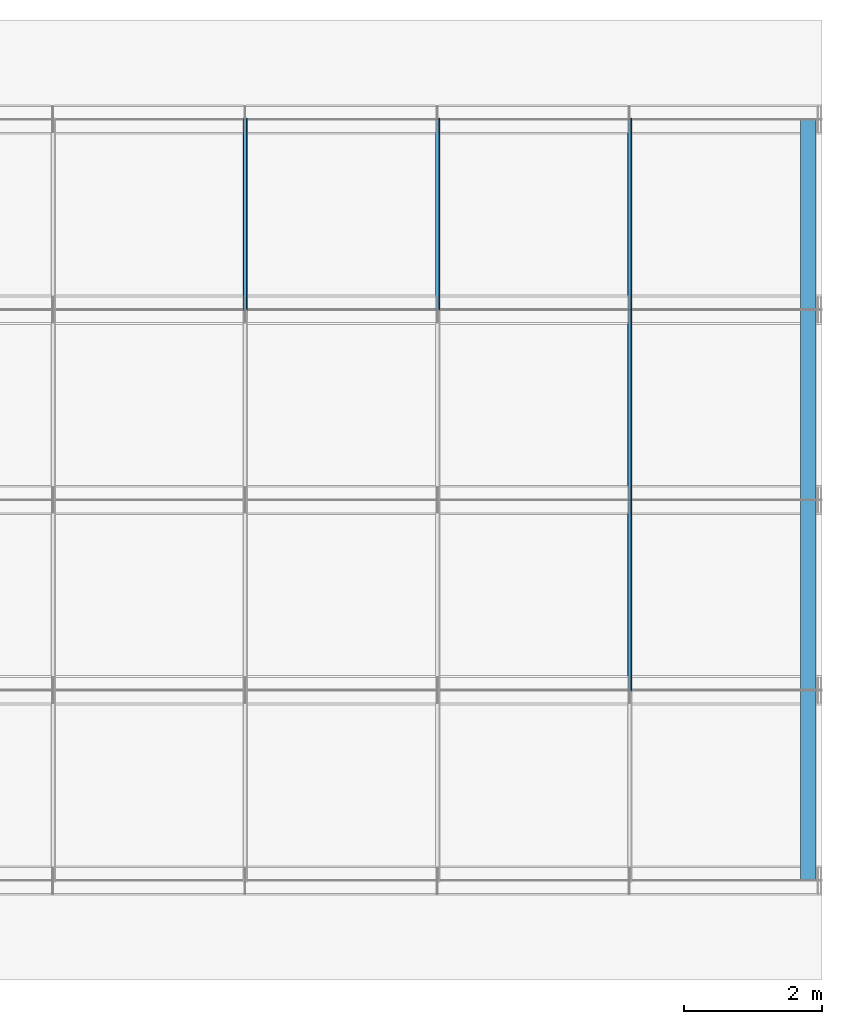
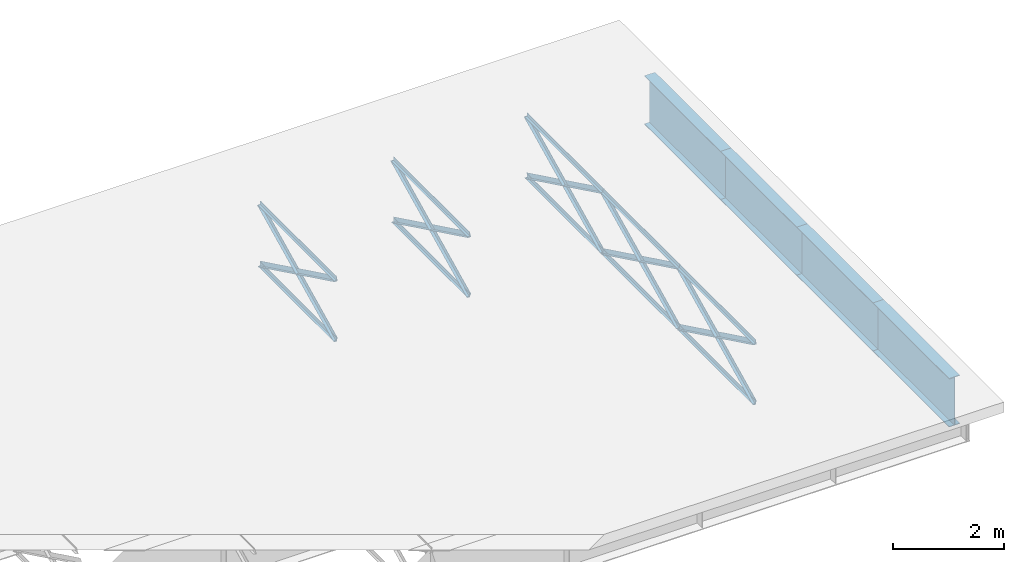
# One storey, part 2 of 13: 24 members.
"""IFC4 building model written with IfcOpenShell, lengths in metres."""

import ifcopenshell
import ifcopenshell.guid

model = None  # the IFC model being written
_history = None  # IfcOwnerHistory: only IFC2X3 demands one
_inside = {}  # id of a spatial element -> (the spatial element, [elements in it])
_under = {}  # id of a project, library or spatial element -> (it, [spatial elements below it])
_declared = {}  # id of a project -> (the project, [libraries it declares])
_typed = {}  # id of a type object -> (the type object, [elements of that type])
_made_of = {}  # id of a material, layer set ... -> (it, [elements and type objects made of it])


def new_model(schema):
    """Start an empty IFC model of exactly this schema.

    Asked for "IFC4X3", IfcOpenShell would pick the latest addendum, in which some entities
    have other attributes; the version numbers below select the first issue.
    IFC2X3 requires an IfcOwnerHistory on every rooted entity: one is made here for all.
    """
    global model, _history
    if schema == "IFC4X3":
        model = ifcopenshell.file(schema_version=(4, 3, 0, 0))
    else:
        model = ifcopenshell.file(schema=schema)
    _inside.clear()
    _under.clear()
    _declared.clear()
    _typed.clear()
    _made_of.clear()
    _history = None
    if model.schema == "IFC2X3":
        org = make("IfcOrganization", Name="unknown")
        user = make(
            "IfcPersonAndOrganization",
            ThePerson=make("IfcPerson", FamilyName="unknown"),
            TheOrganization=org,
        )
        app = make(
            "IfcApplication",
            ApplicationDeveloper=org,
            Version="unknown",
            ApplicationFullName="unknown",
            ApplicationIdentifier="unknown",
        )
        _history = make(
            "IfcOwnerHistory",
            OwningUser=user,
            OwningApplication=app,
            ChangeAction="ADDED",
            CreationDate=0,
        )
    return model


def make(cls, **values):
    """One entity of the class cls with the attributes given. An attribute that is None is left unset."""
    return model.create_entity(
        cls, **{name: value for name, value in values.items() if value is not None}
    )


def rooted(cls, **values):
    """An entity with a GlobalId (a new one), such as an element, a storey or a relation."""
    return make(cls, GlobalId=ifcopenshell.guid.new(), OwnerHistory=_history, **values)


def si_unit(unit_type, name, prefix=None):
    """IfcSIUnit, for example si_unit("LENGTHUNIT", "METRE", prefix="MILLI")."""
    return make("IfcSIUnit", UnitType=unit_type, Prefix=prefix, Name=name)


def assignment(units):
    """IfcUnitAssignment: the units of a project."""
    return None if units is None else make("IfcUnitAssignment", Units=units)


def point(xyz):
    """IfcCartesianPoint."""
    return None if xyz is None else make("IfcCartesianPoint", Coordinates=xyz)


def direction(xyz):
    """IfcDirection."""
    return None if xyz is None else make("IfcDirection", DirectionRatios=xyz)


def frame(location, z_axis=None, x_axis=None):
    """IfcAxis2Placement3D, a coordinate frame: its origin and axes. An axis left out is left unset."""
    return make(
        "IfcAxis2Placement3D",
        Location=point(location),
        Axis=direction(z_axis),
        RefDirection=direction(x_axis),
    )


def frame_2d(location, x_axis=None):
    """IfcAxis2Placement2D, a coordinate frame in the plane: its origin and x axis."""
    return make(
        "IfcAxis2Placement2D", Location=point(location), RefDirection=direction(x_axis)
    )


def origin():
    """The frame at (0, 0, 0) with its axes left unset."""
    return frame((0.0, 0.0, 0.0))


def origin_with_axes():
    """The frame at (0, 0, 0) with the z axis (0, 0, 1) and the x axis (1, 0, 0) written out."""
    return frame((0.0, 0.0, 0.0), z_axis=(0.0, 0.0, 1.0), x_axis=(1.0, 0.0, 0.0))


def origin_2d_with_axis():
    """The frame at (0, 0) in the plane with the x axis (1, 0) written out."""
    return frame_2d((0.0, 0.0), x_axis=(1.0, 0.0))


def place(relative_to, where):
    """IfcLocalPlacement: puts the frame where relative to a parent placement (None: the world)."""
    return make(
        "IfcLocalPlacement", PlacementRelTo=relative_to, RelativePlacement=where
    )


def context(
    kind, dimensions, precision=None, world=None, true_north=None, identifier=None
):
    """IfcGeometricRepresentationContext, for example the 3D "Model" context."""
    return make(
        "IfcGeometricRepresentationContext",
        ContextIdentifier=identifier,
        ContextType=kind,
        CoordinateSpaceDimension=dimensions,
        Precision=precision,
        WorldCoordinateSystem=world,
        TrueNorth=true_north,
    )


def subcontext(parent, identifier, kind, view, scale=None):
    """IfcGeometricRepresentationSubContext, for example "Body" below "Model"."""
    return make(
        "IfcGeometricRepresentationSubContext",
        ContextIdentifier=identifier,
        ContextType=kind,
        ParentContext=parent,
        TargetScale=scale,
        TargetView=view,
    )


def project(units=None, contexts=None):
    """IfcProject with its units and contexts."""
    return rooted(
        "IfcProject",
        Name="project",
        RepresentationContexts=contexts,
        UnitsInContext=assignment(units),
    )


def spatial(cls, under=None, at=None, **own):
    """A site, building, storey or space (cls), placed at a placement, below another one or the project."""
    s = rooted(cls, ObjectPlacement=at, **own)
    if under is not None:
        _under.setdefault(under.id(), (under, []))[1].append(s)
    return s


def profile(cls, at=None, kind="AREA", **sizes):
    """A parametric profile (cls). Its sizes go by their IFC names, for example OverallWidth=200.0."""
    return make(cls, ProfileType=kind, Position=at, **sizes)


def i_section(**sizes):
    """IfcIShapeProfileDef."""
    return profile("IfcIShapeProfileDef", **sizes)


def l_section(**sizes):
    """IfcLShapeProfileDef."""
    return profile("IfcLShapeProfileDef", **sizes)


def extrude(swept, where, along, depth):
    """IfcExtrudedAreaSolid: the profile swept, set in the frame where, extruded along a direction by depth."""
    return make(
        "IfcExtrudedAreaSolid",
        SweptArea=swept,
        Position=where,
        ExtrudedDirection=direction(along),
        Depth=depth,
    )


def shape(context_of_items, identifier, shape_type, items):
    """IfcShapeRepresentation: the items that make up one representation, for example the "Body"."""
    return make(
        "IfcShapeRepresentation",
        ContextOfItems=context_of_items,
        RepresentationIdentifier=identifier,
        RepresentationType=shape_type,
        Items=items,
    )


def made_of(thing, what):
    """Note that an element or type object is made of a material, layer set ...; save() writes the relation."""
    if what is not None:
        _made_of.setdefault(what.id(), (what, []))[1].append(thing)
    return thing


def element(
    cls,
    number,
    at=None,
    inside=None,
    cuts=None,
    type_object=None,
    material=None,
    context=None,
    identifier="Body",
    shape_type=None,
    held_by="IfcProductDefinitionShape",
    body=None,
    shapes=None,
    **own,
):
    """One element of the class cls, such as IfcWall. Its Tag is "e" and its number.

    at: its placement. inside: the storey or other place that contains it. cuts: it is an
    opening in that element (IfcRelVoidsElement). A single representation is given by context,
    identifier, shape_type and body (its items); several are given by shapes. held_by: the class
    of the entity that holds the representations. save() writes the other relations.
    """
    e = rooted(cls, Tag="e%d" % number, ObjectPlacement=at, **own)
    if body is not None:
        shapes = [shape(context, identifier, shape_type, body)]
    if shapes is not None:
        e.Representation = make(held_by, Representations=shapes)
    if inside is not None:
        _inside.setdefault(inside.id(), (inside, []))[1].append(e)
    if cuts is not None:
        rooted(
            "IfcRelVoidsElement", RelatingBuildingElement=cuts, RelatedOpeningElement=e
        )
    if type_object is not None:
        _typed.setdefault(type_object.id(), (type_object, []))[1].append(e)
    return made_of(e, material)


def aggregate(whole, parts):
    """IfcRelAggregates: a whole, such as a stair, and the parts it consists of."""
    return rooted("IfcRelAggregates", RelatingObject=whole, RelatedObjects=parts)


def save(model, path):
    """Write the relations noted so far, then the file.

    IfcRelAggregates (storeys below a building ...), IfcRelContainedInSpatialStructure (elements
    in a storey), IfcRelDefinesByType, IfcRelAssociatesMaterial and IfcRelDeclares: one each for
    every whole, place, type object, material and project.
    """
    for whole, parts in _under.values():
        aggregate(whole, parts)
    for where, things in _inside.values():
        rooted(
            "IfcRelContainedInSpatialStructure",
            RelatedElements=things,
            RelatingStructure=where,
        )
    for kind, things in _typed.values():
        rooted("IfcRelDefinesByType", RelatedObjects=things, RelatingType=kind)
    for what, things in _made_of.values():
        rooted("IfcRelAssociatesMaterial", RelatedObjects=things, RelatingMaterial=what)
    for by, libraries in _declared.values():
        rooted("IfcRelDeclares", RelatingContext=by, RelatedDefinitions=libraries)
    model.write(path)


model = new_model("IFC4")

# Units and contexts
model_context = context("Model", 3, precision=1e-05, world=origin())
body_context = subcontext(model_context, "Body", "Model", "MODEL_VIEW")
ifc_project = project(units=[si_unit("LENGTHUNIT", "METRE"), si_unit("AREAUNIT", "SQUARE_METRE"), si_unit("VOLUMEUNIT", "CUBIC_METRE"), si_unit("PLANEANGLEUNIT", "RADIAN")], contexts=[model_context])

# Site, building, storey
site_placement = place(None, origin_with_axes())
site = spatial("IfcSite", under=ifc_project, at=site_placement, Name="Default Site")
building_placement = place(site_placement, origin_with_axes())
building = spatial("IfcBuilding", under=site, at=building_placement, Name="Bridge Structure")
storey_placement = place(building_placement, origin_with_axes())
storey = spatial("IfcBuildingStorey", under=building, at=storey_placement, Name="Superstructure")

# Members
for number, where, z_axis, x_axis, name in (
    (1, (16.666666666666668, 2.75, 0.6695), (0.0, 0.8990855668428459, -0.43777293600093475), (-1.0, 0.0, 0.0), "Diagonal Brace"),
    (2, (16.666666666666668, 2.75, -0.6695), (0.0, 0.8990855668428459, 0.43777293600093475), (-1.0, 0.0, 0.0), "Diagonal Brace"),
):
    element("IfcMember", number, at=place(storey_placement, frame(where, z_axis=z_axis, x_axis=x_axis)), inside=storey, Name=name, context=body_context, shape_type="SweptSolid", body=[
        extrude(l_section(Depth=0.1, Width=0.066, Thickness=0.008, at=origin_2d_with_axis()), origin_with_axes(), (0.0, 0.0, 1.0), 3.058663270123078),
    ])
for number, where, z_axis, x_axis, name in (
    (3, (16.666666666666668, 2.75, -0.6695), (0.0, 1.0, 0.0), (-1.0, 0.0, 0.0), "Bottom Chord"),
    (4, (16.666666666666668, 2.75, 0.6695), (0.0, 1.0, 0.0), (-1.0, 0.0, 0.0), "Top Chord"),
):
    element("IfcMember", number, at=place(storey_placement, frame(where, z_axis=z_axis, x_axis=x_axis)), inside=storey, Name=name, context=body_context, shape_type="SweptSolid", body=[
        extrude(l_section(Depth=0.08700000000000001, Width=0.053, Thickness=0.008, at=origin_2d_with_axis()), origin_with_axes(), (0.0, 0.0, 1.0), 2.75),
    ])
for number, where, z_axis, x_axis, name in (
    (5, (19.444444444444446, 2.75, 0.6695), (0.0, 0.8990855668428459, -0.43777293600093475), (-1.0, 0.0, 0.0), "Diagonal Brace"),
    (6, (19.444444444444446, 2.75, -0.6695), (0.0, 0.8990855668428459, 0.43777293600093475), (-1.0, 0.0, 0.0), "Diagonal Brace"),
):
    element("IfcMember", number, at=place(storey_placement, frame(where, z_axis=z_axis, x_axis=x_axis)), inside=storey, Name=name, context=body_context, shape_type="SweptSolid", body=[
        extrude(l_section(Depth=0.1, Width=0.066, Thickness=0.008, at=origin_2d_with_axis()), origin_with_axes(), (0.0, 0.0, 1.0), 3.058663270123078),
    ])
for number, where, z_axis, x_axis, name in (
    (7, (19.444444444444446, 2.75, -0.6695), (0.0, 1.0, 0.0), (-1.0, 0.0, 0.0), "Bottom Chord"),
    (8, (19.444444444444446, 2.75, 0.6695), (0.0, 1.0, 0.0), (-1.0, 0.0, 0.0), "Top Chord"),
):
    element("IfcMember", number, at=place(storey_placement, frame(where, z_axis=z_axis, x_axis=x_axis)), inside=storey, Name=name, context=body_context, shape_type="SweptSolid", body=[
        extrude(l_section(Depth=0.08700000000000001, Width=0.053, Thickness=0.008, at=origin_2d_with_axis()), origin_with_axes(), (0.0, 0.0, 1.0), 2.75),
    ])
for number, where, z_axis, x_axis, name in (
    (9, (22.22222222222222, -2.75, 0.6695), (0.0, 0.8990855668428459, -0.43777293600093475), (-1.0, 0.0, 0.0), "Diagonal Brace"),
    (10, (22.22222222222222, -2.75, -0.6695), (0.0, 0.8990855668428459, 0.43777293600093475), (-1.0, 0.0, 0.0), "Diagonal Brace"),
):
    element("IfcMember", number, at=place(storey_placement, frame(where, z_axis=z_axis, x_axis=x_axis)), inside=storey, Name=name, context=body_context, shape_type="SweptSolid", body=[
        extrude(l_section(Depth=0.1, Width=0.066, Thickness=0.008, at=origin_2d_with_axis()), origin_with_axes(), (0.0, 0.0, 1.0), 3.058663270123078),
    ])
for number, where, z_axis, x_axis, name in (
    (11, (22.22222222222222, -2.75, -0.6695), (0.0, 1.0, 0.0), (-1.0, 0.0, 0.0), "Bottom Chord"),
    (12, (22.22222222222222, -2.75, 0.6695), (0.0, 1.0, 0.0), (-1.0, 0.0, 0.0), "Top Chord"),
):
    element("IfcMember", number, at=place(storey_placement, frame(where, z_axis=z_axis, x_axis=x_axis)), inside=storey, Name=name, context=body_context, shape_type="SweptSolid", body=[
        extrude(l_section(Depth=0.08700000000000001, Width=0.053, Thickness=0.008, at=origin_2d_with_axis()), origin_with_axes(), (0.0, 0.0, 1.0), 2.75),
    ])
for number, where, z_axis, x_axis, name in (
    (13, (22.22222222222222, 0.0, 0.6695), (0.0, 0.8990855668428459, -0.43777293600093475), (-1.0, 0.0, 0.0), "Diagonal Brace"),
    (14, (22.22222222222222, 0.0, -0.6695), (0.0, 0.8990855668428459, 0.43777293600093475), (-1.0, 0.0, 0.0), "Diagonal Brace"),
):
    element("IfcMember", number, at=place(storey_placement, frame(where, z_axis=z_axis, x_axis=x_axis)), inside=storey, Name=name, context=body_context, shape_type="SweptSolid", body=[
        extrude(l_section(Depth=0.1, Width=0.066, Thickness=0.008, at=origin_2d_with_axis()), origin_with_axes(), (0.0, 0.0, 1.0), 3.058663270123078),
    ])
for number, where, z_axis, x_axis, name in (
    (15, (22.22222222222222, 0.0, -0.6695), (0.0, 1.0, 0.0), (-1.0, 0.0, 0.0), "Bottom Chord"),
    (16, (22.22222222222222, 0.0, 0.6695), (0.0, 1.0, 0.0), (-1.0, 0.0, 0.0), "Top Chord"),
):
    element("IfcMember", number, at=place(storey_placement, frame(where, z_axis=z_axis, x_axis=x_axis)), inside=storey, Name=name, context=body_context, shape_type="SweptSolid", body=[
        extrude(l_section(Depth=0.08700000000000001, Width=0.053, Thickness=0.008, at=origin_2d_with_axis()), origin_with_axes(), (0.0, 0.0, 1.0), 2.75),
    ])
for number, where, z_axis, x_axis, name in (
    (17, (22.22222222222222, 2.75, 0.6695), (0.0, 0.8990855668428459, -0.43777293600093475), (-1.0, 0.0, 0.0), "Diagonal Brace"),
    (18, (22.22222222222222, 2.75, -0.6695), (0.0, 0.8990855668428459, 0.43777293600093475), (-1.0, 0.0, 0.0), "Diagonal Brace"),
):
    element("IfcMember", number, at=place(storey_placement, frame(where, z_axis=z_axis, x_axis=x_axis)), inside=storey, Name=name, context=body_context, shape_type="SweptSolid", body=[
        extrude(l_section(Depth=0.1, Width=0.066, Thickness=0.008, at=origin_2d_with_axis()), origin_with_axes(), (0.0, 0.0, 1.0), 3.058663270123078),
    ])
for number, where, z_axis, x_axis, name in (
    (19, (22.22222222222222, 2.75, -0.6695), (0.0, 1.0, 0.0), (-1.0, 0.0, 0.0), "Bottom Chord"),
    (20, (22.22222222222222, 2.75, 0.6695), (0.0, 1.0, 0.0), (-1.0, 0.0, 0.0), "Top Chord"),
):
    element("IfcMember", number, at=place(storey_placement, frame(where, z_axis=z_axis, x_axis=x_axis)), inside=storey, Name=name, context=body_context, shape_type="SweptSolid", body=[
        extrude(l_section(Depth=0.08700000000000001, Width=0.053, Thickness=0.008, at=origin_2d_with_axis()), origin_with_axes(), (0.0, 0.0, 1.0), 2.75),
    ])
for number, where, z_axis, x_axis, name in (
    (21, (24.8, -5.5, 0.134), (0.0, 1.0, 0.0), (-1.0, 0.0, 0.0), "End Diaphragm"),
    (22, (24.8, -2.75, 0.134), (0.0, 1.0, 0.0), (-1.0, 0.0, 0.0), "End Diaphragm"),
    (23, (24.8, 0.0, 0.134), (0.0, 1.0, 0.0), (-1.0, 0.0, 0.0), "End Diaphragm"),
    (24, (24.8, 2.75, 0.134), (0.0, 1.0, 0.0), (-1.0, 0.0, 0.0), "End Diaphragm"),
):
    element("IfcMember", number, at=place(storey_placement, frame(where, z_axis=z_axis, x_axis=x_axis)), inside=storey, Name=name, context=body_context, shape_type="SweptSolid", body=[
        extrude(i_section(OverallWidth=0.225, OverallDepth=1.071, WebThickness=0.012, FlangeThickness=0.012, at=origin_2d_with_axis()), origin_with_axes(), (0.0, 0.0, 1.0), 2.75),
    ])

save(model, "model.ifc")
